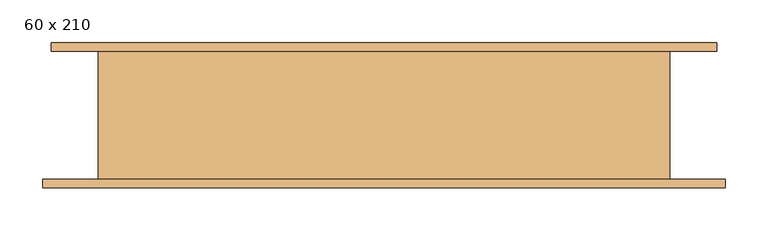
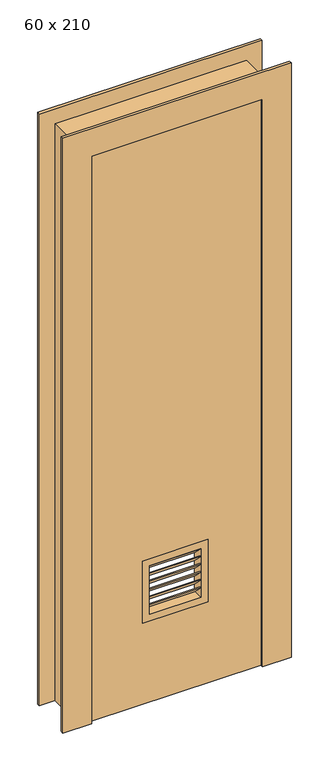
"""IFC4 building model written with IfcOpenShell, lengths in millimetres: door geometry, PORTA DE ABRIR COM GRELHA - 1 FOLHA : 60 x 210."""

from ifc_helpers import new_model, si_unit, frame, origin, place, context, project, spatial, polyline, outline, extrude, faceted_brep, source, transform, mapped, element, save


def door_60_x_210_264a725e(model_context):
    return source(origin(), model_context, "Body", "SolidModel", [
        extrude(outline(polyline([(-40.0, 441.0), (-75.0, 476.0), (-70.0, 476.0), (-35.0, 441.0), (-40.0, 441.0)])), frame((-10.0, 0.0, 0.0), z_axis=(1.0, 0.0, 0.0), x_axis=(0.0, 1.0, 0.0)), (0.0, 0.0, 1.0), 180.0),
        extrude(outline(polyline([(-40.0, 412.0), (-75.0, 447.0), (-70.0, 447.0), (-35.0, 412.0), (-40.0, 412.0)])), frame((-10.0, 0.0, 0.0), z_axis=(1.0, 0.0, 0.0), x_axis=(0.0, 1.0, 0.0)), (0.0, 0.0, 1.0), 180.0),
        extrude(outline(polyline([(-40.0, 383.0), (-75.0, 418.0), (-70.0, 418.0), (-35.0, 383.0), (-40.0, 383.0)])), frame((-10.0, 0.0, 0.0), z_axis=(1.0, 0.0, 0.0), x_axis=(0.0, 1.0, 0.0)), (0.0, 0.0, 1.0), 180.0),
        extrude(outline(polyline([(-40.0, 354.0), (-75.0, 389.0), (-70.0, 389.0), (-35.0, 354.0), (-40.0, 354.0)])), frame((-10.0, 0.0, 0.0), z_axis=(1.0, 0.0, 0.0), x_axis=(0.0, 1.0, 0.0)), (0.0, 0.0, 1.0), 180.0),
        extrude(outline(polyline([(-40.0, 470.0), (-75.0, 505.0), (-70.0, 505.0), (-35.0, 470.0), (-40.0, 470.0)])), frame((-10.0, 0.0, 0.0), z_axis=(1.0, 0.0, 0.0), x_axis=(0.0, 1.0, 0.0)), (0.0, 0.0, 1.0), 180.0),
        extrude(outline(polyline([(-40.0, 325.0), (-75.0, 360.0), (-70.0, 360.0), (-35.0, 325.0), (-40.0, 325.0)])), frame((-10.0, 0.0, 0.0), z_axis=(1.0, 0.0, 0.0), x_axis=(0.0, 1.0, 0.0)), (0.0, 0.0, 1.0), 180.0),
        extrude(outline(polyline([(530.0, 195.0), (530.0, -35.0), (300.0, -35.0), (300.0, 195.0), (530.0, 195.0)]), holes=[polyline([(505.0, 170.0), (325.0, 170.0), (325.0, -10.0), (505.0, -10.0), (505.0, 170.0)])]), frame((0.0, -75.0, 0.0), z_axis=(0.0, 1.0, 0.0), x_axis=(0.0, 0.0, 1.0)), (0.0, 0.0, 1.0), 40.0),
        extrude(outline(polyline([(2100.0, 380.0), (2100.0, -220.0), (0.0, -220.0), (0.0, 380.0), (2100.0, 380.0)]), holes=[polyline([(530.0, 195.0), (300.0, 195.0), (300.0, -35.0), (530.0, -35.0), (530.0, 195.0)])]), frame((0.0, -75.0, 0.0), z_axis=(0.0, 1.0, 0.0), x_axis=(0.0, 0.0, 1.0)), (0.0, 0.0, 1.0), 40.0),
        extrude(outline(polyline([(2090.0, 370.0), (0.0, 370.0), (0.0, 470.0), (2190.0, 470.0), (2190.0, -310.0), (0.0, -310.0), (0.0, -210.0), (2090.0, -210.0), (2090.0, 370.0)])), frame((0.0, 75.0, 0.0), z_axis=(0.0, 1.0, 0.0), x_axis=(0.0, 0.0, 1.0)), (0.0, 0.0, 1.0), 10.0),
        extrude(outline(polyline([(2100.0, -220.0), (2100.0, 380.0), (0.0, 380.0), (0.0, 480.0), (2200.0, 480.0), (2200.0, -320.0), (0.0, -320.0), (0.0, -220.0), (2100.0, -220.0)])), frame((0.0, -85.0, 0.0), z_axis=(0.0, 1.0, 0.0), x_axis=(0.0, 0.0, 1.0)), (0.0, 0.0, 1.0), 10.0),
        faceted_brep([(-255.0, 75.0, 0.0), (-210.0, 75.0, 0.0), (-210.0, -35.0, 0.0), (-220.0, -35.0, 0.0), (-220.0, -75.0, 0.0), (-255.0, -75.0, 0.0), (-255.0, 75.0, 2135.0), (415.0, 75.0, 2135.0), (415.0, 75.0, 0.0), (370.0, 75.0, 0.0), (370.0, 75.0, 2090.0), (-210.0, 75.0, 2090.0), (-210.0, -35.0, 2090.0), (370.0, -35.0, 2090.0), (370.0, -35.0, 0.0), (380.0, -35.0, 0.0), (380.0, -35.0, 2100.0), (-220.0, -35.0, 2100.0), (-220.0, -75.0, 2100.0), (380.0, -75.0, 2100.0), (380.0, -75.0, 0.0), (415.0, -75.0, 0.0), (415.0, -75.0, 2135.0), (-255.0, -75.0, 2135.0)], [[[0, 1, 2, 3, 4, 5]], [[1, 0, 6, 7, 8, 9, 10, 11]], [[2, 1, 11, 12]], [[3, 2, 12, 13, 14, 15, 16, 17]], [[4, 3, 17, 18]], [[5, 4, 18, 19, 20, 21, 22, 23]], [[0, 5, 23, 6]], [[7, 22, 21, 8]], [[8, 21, 20, 15, 14, 9]], [[13, 10, 9, 14]], [[19, 16, 15, 20]], [[12, 11, 10, 13]], [[18, 17, 16, 19]], [[6, 23, 22, 7]]]),
    ])


if __name__ == "__main__":
    model = new_model("IFC4")
    model_context = context("Model", 3, world=origin())
    ifc_project = project(units=[si_unit("LENGTHUNIT", "METRE", prefix="MILLI")], contexts=[model_context])
    site = spatial("IfcSite", under=ifc_project)
    building = spatial("IfcBuilding", under=site)
    placement = place(None, origin())
    door_60_x_210_shape = door_60_x_210_264a725e(model_context)
    element("IfcDoor", 1, ObjectType="PORTA DE ABRIR COM GRELHA - 1 FOLHA : 60 x 210", at=placement, inside=building, context=model_context, shape_type="MappedRepresentation", body=[
        mapped(door_60_x_210_shape, transform((0.0, 0.0, 0.0), x_axis=(1.0, 0.0, 0.0), y_axis=(0.0, 1.0, 0.0), z_axis=(0.0, 0.0, 1.0))),
    ])
    save(model, "model.ifc")
